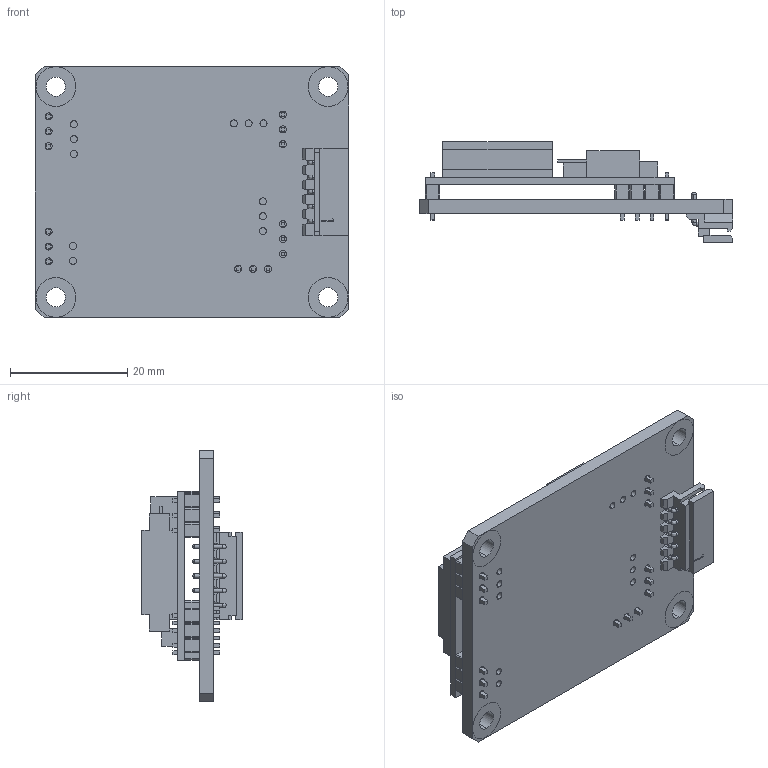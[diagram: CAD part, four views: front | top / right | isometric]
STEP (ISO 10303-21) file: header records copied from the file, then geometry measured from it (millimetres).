
FILE_DESCRIPTION (( 'STEP AP203' ), '1' );
FILE_NAME ('BSSP-F100W-B.STEP', '2016-07-23T17:11:12', ( 'gregory' ), ( '' ), 'SwSTEP 2.0', 'SolidWorks 2011', '' );
FILE_SCHEMA (( 'CONFIG_CONTROL_DESIGN' ));
Length unit declared in the file: millimetre
Products named in the file (1): BSSP-F100W-B
Bounding box: 53.5 x 17.14 x 43 mm (x, y, z)
Volume: 10296.2 mm3; surface area: 9959.9 mm2
Topology: 1 solids, 1 shells, 660 faces, 1707 edges, 1106 vertices
Faces by surface type: plane 519, cylinder 116, torus 20, bspline 5
Entity records: 21088 total; most frequent: CARTESIAN_POINT 4599, ORIENTED_EDGE 3394, DIRECTION 3276, EDGE_CURVE 1697, LINE 1390, VECTOR 1390, VERTEX_POINT 1106, AXIS2_PLACEMENT_3D 943
